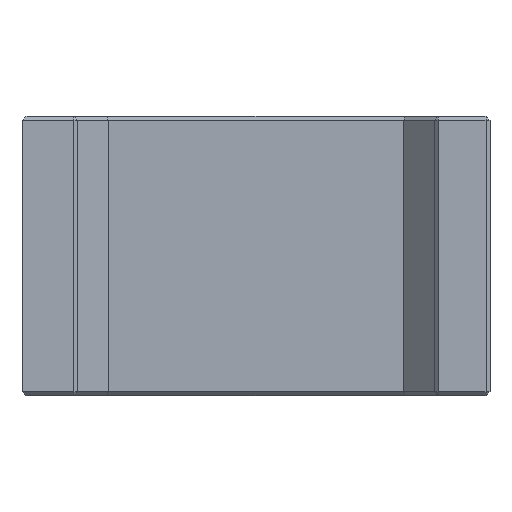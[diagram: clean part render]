
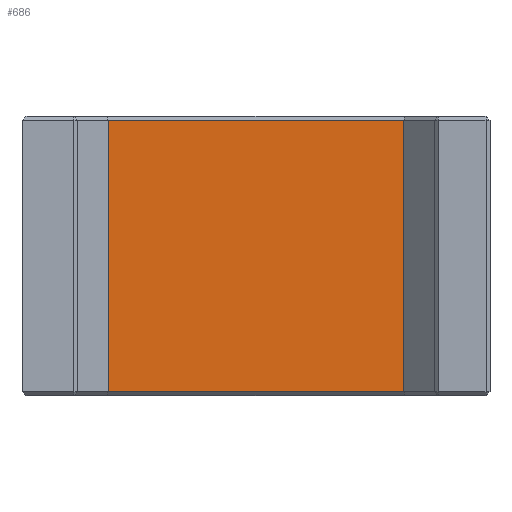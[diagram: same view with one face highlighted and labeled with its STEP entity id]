
A CAD part, front view. The second image highlights one B-rep face of the part: STEP entity #686.
In plain terms, the highlighted planar face has unit normal (0, -1, 0).
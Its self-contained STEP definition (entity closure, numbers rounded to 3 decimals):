
#314 = CARTESIAN_POINT ( 'NONE',  ( 18.345, 39.25, -17. ) ) ;
#459 = CARTESIAN_POINT ( 'NONE',  ( -18.697, 39.25, 17.5 ) ) ;
#624 = EDGE_LOOP ( 'NONE', ( #1578, #953, #4535, #2780 ) ) ;
#637 = VECTOR ( 'NONE', #3307, 1000. ) ;
#652 = AXIS2_PLACEMENT_3D ( 'NONE', #459, #4664, #2793 ) ;
#686 = ADVANCED_FACE ( 'NONE', ( #3100 ), #3577, .F. ) ;
#785 = EDGE_CURVE ( 'NONE', #972, #2670, #1249, .T. ) ;
#803 = VERTEX_POINT ( 'NONE', #1697 ) ;
#953 = ORIENTED_EDGE ( 'NONE', *, *, #1073, .T. ) ;
#972 = VERTEX_POINT ( 'NONE', #1399 ) ;
#1073 = EDGE_CURVE ( 'NONE', #2670, #803, #1471, .T. ) ;
#1249 = LINE ( 'NONE', #2111, #2570 ) ;
#1399 = CARTESIAN_POINT ( 'NONE',  ( -18.697, 39.25, 17. ) ) ;
#1415 = VECTOR ( 'NONE', #3553, 1000. ) ;
#1470 = DIRECTION ( 'NONE',  ( 1., 0., 0. ) ) ;
#1471 = LINE ( 'NONE', #314, #2758 ) ;
#1485 = LINE ( 'NONE', #3572, #637 ) ;
#1578 = ORIENTED_EDGE ( 'NONE', *, *, #785, .T. ) ;
#1697 = CARTESIAN_POINT ( 'NONE',  ( 18.345, 39.25, -17. ) ) ;
#2083 = CARTESIAN_POINT ( 'NONE',  ( 18.345, 39.25, 17. ) ) ;
#2111 = CARTESIAN_POINT ( 'NONE',  ( -18.697, 39.25, 17.5 ) ) ;
#2570 = VECTOR ( 'NONE', #2899, 1000. ) ;
#2670 = VERTEX_POINT ( 'NONE', #3495 ) ;
#2758 = VECTOR ( 'NONE', #1470, 1000. ) ;
#2780 = ORIENTED_EDGE ( 'NONE', *, *, #3121, .T. ) ;
#2787 = EDGE_CURVE ( 'NONE', #3242, #803, #1485, .T. ) ;
#2793 = DIRECTION ( 'NONE',  ( 0., 0., 1. ) ) ;
#2899 = DIRECTION ( 'NONE',  ( 0., 0., -1. ) ) ;
#3100 = FACE_OUTER_BOUND ( 'NONE', #624, .T. ) ;
#3121 = EDGE_CURVE ( 'NONE', #3242, #972, #4096, .T. ) ;
#3242 = VERTEX_POINT ( 'NONE', #2083 ) ;
#3307 = DIRECTION ( 'NONE',  ( 0., 0., -1. ) ) ;
#3491 = CARTESIAN_POINT ( 'NONE',  ( -18.697, 39.25, 17. ) ) ;
#3495 = CARTESIAN_POINT ( 'NONE',  ( -18.697, 39.25, -17. ) ) ;
#3553 = DIRECTION ( 'NONE',  ( -1., 0., 0. ) ) ;
#3572 = CARTESIAN_POINT ( 'NONE',  ( 18.345, 39.25, 17.5 ) ) ;
#3577 = PLANE ( 'NONE',  #652 ) ;
#4096 = LINE ( 'NONE', #3491, #1415 ) ;
#4535 = ORIENTED_EDGE ( 'NONE', *, *, #2787, .F. ) ;
#4664 = DIRECTION ( 'NONE',  ( 0., 1., 0. ) ) ;
